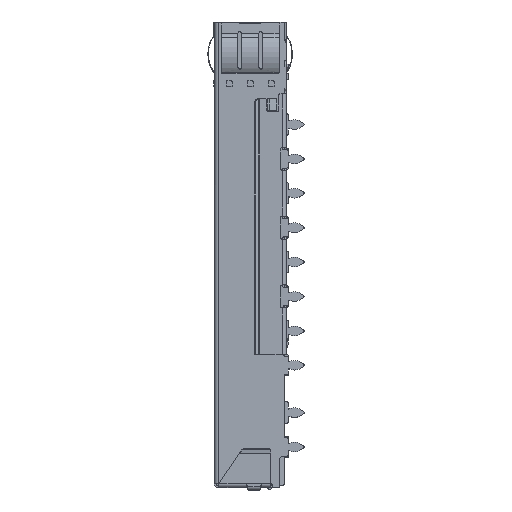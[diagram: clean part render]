
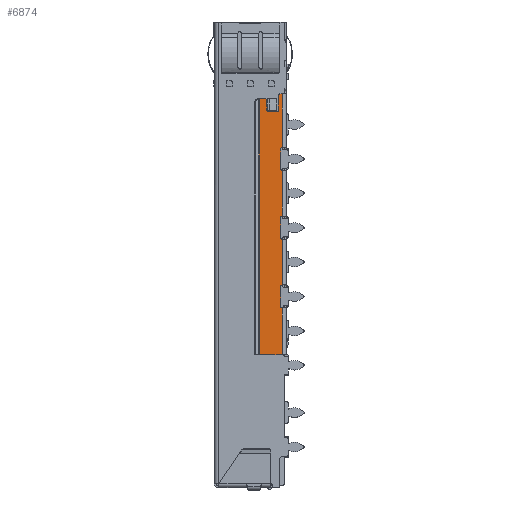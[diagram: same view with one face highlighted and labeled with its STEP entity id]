
A CAD part, left-side view. The second image highlights one B-rep face of the part: STEP entity #6874.
In plain terms, the highlighted planar face has unit normal (-1, 0, 0).
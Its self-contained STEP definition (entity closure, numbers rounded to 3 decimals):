
#2890=FACE_OUTER_BOUND('',#17374,.T.);
#6874=ADVANCED_FACE('',(#2890),#10321,.F.);
#10321=PLANE('',#73436);
#14139=CIRCLE('',#73404,0.2);
#14141=CIRCLE('',#73408,0.2);
#14143=CIRCLE('',#73412,0.2);
#14145=CIRCLE('',#73416,0.2);
#14153=CIRCLE('',#73430,0.2);
#14154=CIRCLE('',#73431,0.2);
#14155=CIRCLE('',#73432,0.2);
#14156=CIRCLE('',#73433,0.2);
#14157=CIRCLE('',#73434,0.2);
#14158=CIRCLE('',#73435,0.2);
#17374=EDGE_LOOP('',(#27868,#27869,#27870,#27871,#27872,#27873,#27874,#27875,
#27876,#27877,#27878,#27879,#27880,#27881,#27882,#27883,#27884,#27885,#27886,
#27887,#27888,#27889,#27890,#27891));
#27868=ORIENTED_EDGE('',*,*,#52150,.F.);
#27869=ORIENTED_EDGE('',*,*,#52103,.F.);
#27870=ORIENTED_EDGE('',*,*,#52151,.F.);
#27871=ORIENTED_EDGE('',*,*,#52083,.F.);
#27872=ORIENTED_EDGE('',*,*,#52152,.F.);
#27873=ORIENTED_EDGE('',*,*,#52107,.F.);
#27874=ORIENTED_EDGE('',*,*,#52153,.F.);
#27875=ORIENTED_EDGE('',*,*,#52069,.F.);
#27876=ORIENTED_EDGE('',*,*,#52154,.T.);
#27877=ORIENTED_EDGE('',*,*,#52113,.T.);
#27878=ORIENTED_EDGE('',*,*,#52115,.F.);
#27879=ORIENTED_EDGE('',*,*,#52120,.T.);
#27880=ORIENTED_EDGE('',*,*,#52123,.F.);
#27881=ORIENTED_EDGE('',*,*,#52126,.T.);
#27882=ORIENTED_EDGE('',*,*,#52129,.F.);
#27883=ORIENTED_EDGE('',*,*,#52132,.T.);
#27884=ORIENTED_EDGE('',*,*,#52134,.F.);
#27885=ORIENTED_EDGE('',*,*,#52101,.T.);
#27886=ORIENTED_EDGE('',*,*,#52149,.T.);
#27887=ORIENTED_EDGE('',*,*,#52052,.F.);
#27888=ORIENTED_EDGE('',*,*,#52155,.F.);
#27889=ORIENTED_EDGE('',*,*,#52137,.F.);
#27890=ORIENTED_EDGE('',*,*,#52156,.F.);
#27891=ORIENTED_EDGE('',*,*,#52041,.F.);
#44531=VERTEX_POINT('',#112288);
#44534=VERTEX_POINT('',#112295);
#44539=VERTEX_POINT('',#112358);
#44541=VERTEX_POINT('',#112364);
#44545=VERTEX_POINT('',#112377);
#44551=VERTEX_POINT('',#112390);
#44556=VERTEX_POINT('',#112423);
#44559=VERTEX_POINT('',#112430);
#44571=VERTEX_POINT('',#112499);
#44574=VERTEX_POINT('',#112509);
#44575=VERTEX_POINT('',#112513);
#44576=VERTEX_POINT('',#112514);
#44579=VERTEX_POINT('',#112522);
#44580=VERTEX_POINT('',#112523);
#44585=VERTEX_POINT('',#112534);
#44586=VERTEX_POINT('',#112536);
#44587=VERTEX_POINT('',#112540);
#44590=VERTEX_POINT('',#112548);
#44592=VERTEX_POINT('',#112554);
#44594=VERTEX_POINT('',#112560);
#44596=VERTEX_POINT('',#112566);
#44598=VERTEX_POINT('',#112572);
#44600=VERTEX_POINT('',#112583);
#44601=VERTEX_POINT('',#112584);
#52041=EDGE_CURVE('',#44534,#44531,#60613,.T.);
#52052=EDGE_CURVE('',#44541,#44539,#60618,.T.);
#52069=EDGE_CURVE('',#44551,#44545,#60627,.T.);
#52083=EDGE_CURVE('',#44559,#44556,#60633,.T.);
#52101=EDGE_CURVE('',#44571,#44574,#60647,.T.);
#52103=EDGE_CURVE('',#44575,#44576,#60648,.T.);
#52107=EDGE_CURVE('',#44579,#44580,#60652,.T.);
#52113=EDGE_CURVE('',#44586,#44585,#14139,.T.);
#52115=EDGE_CURVE('',#44587,#44585,#60658,.T.);
#52120=EDGE_CURVE('',#44587,#44590,#14141,.T.);
#52123=EDGE_CURVE('',#44592,#44590,#60664,.T.);
#52126=EDGE_CURVE('',#44592,#44594,#14143,.T.);
#52129=EDGE_CURVE('',#44596,#44594,#60668,.T.);
#52132=EDGE_CURVE('',#44596,#44598,#14145,.T.);
#52134=EDGE_CURVE('',#44571,#44598,#60671,.T.);
#52137=EDGE_CURVE('',#44600,#44601,#60673,.T.);
#52149=EDGE_CURVE('',#44574,#44539,#60679,.T.);
#52150=EDGE_CURVE('',#44576,#44534,#14153,.T.);
#52151=EDGE_CURVE('',#44556,#44575,#14154,.T.);
#52152=EDGE_CURVE('',#44580,#44559,#14155,.T.);
#52153=EDGE_CURVE('',#44545,#44579,#14156,.T.);
#52154=EDGE_CURVE('',#44551,#44586,#60680,.T.);
#52155=EDGE_CURVE('',#44601,#44541,#14157,.T.);
#52156=EDGE_CURVE('',#44531,#44600,#14158,.T.);
#60613=LINE('',#112336,#67168);
#60618=LINE('',#112371,#67173);
#60627=LINE('',#112417,#67182);
#60633=LINE('',#112471,#67188);
#60647=LINE('',#112508,#67202);
#60648=LINE('',#112512,#67203);
#60652=LINE('',#112521,#67207);
#60658=LINE('',#112539,#67213);
#60664=LINE('',#112555,#67219);
#60668=LINE('',#112567,#67223);
#60671=LINE('',#112576,#67226);
#60673=LINE('',#112582,#67228);
#60679=LINE('',#112600,#67234);
#60680=LINE('',#112606,#67235);
#67168=VECTOR('',#86042,1.);
#67173=VECTOR('',#86063,1.);
#67182=VECTOR('',#86092,1.);
#67188=VECTOR('',#86114,1.);
#67202=VECTOR('',#86150,1.);
#67203=VECTOR('',#86155,1.);
#67207=VECTOR('',#86161,1.);
#67213=VECTOR('',#86175,1.);
#67219=VECTOR('',#86189,1.);
#67223=VECTOR('',#86201,1.);
#67226=VECTOR('',#86212,1.);
#67228=VECTOR('',#86220,1.);
#67234=VECTOR('',#86242,1.);
#67235=VECTOR('',#86253,1.);
#73404=AXIS2_PLACEMENT_3D('',#112535,#86170,#86171);
#73408=AXIS2_PLACEMENT_3D('',#112549,#86183,#86184);
#73412=AXIS2_PLACEMENT_3D('',#112561,#86195,#86196);
#73416=AXIS2_PLACEMENT_3D('',#112573,#86207,#86208);
#73430=AXIS2_PLACEMENT_3D('',#112602,#86245,#86246);
#73431=AXIS2_PLACEMENT_3D('',#112603,#86247,#86248);
#73432=AXIS2_PLACEMENT_3D('',#112604,#86249,#86250);
#73433=AXIS2_PLACEMENT_3D('',#112605,#86251,#86252);
#73434=AXIS2_PLACEMENT_3D('',#112607,#86254,#86255);
#73435=AXIS2_PLACEMENT_3D('',#112608,#86256,#86257);
#73436=AXIS2_PLACEMENT_3D('',#112609,#86258,#86259);
#86042=DIRECTION('',(0.,0.,-1.));
#86063=DIRECTION('',(0.,0.,-1.));
#86092=DIRECTION('',(0.,0.,-1.));
#86114=DIRECTION('',(0.,0.,-1.));
#86150=DIRECTION('',(0.,0.,-1.));
#86155=DIRECTION('',(0.,0.,-1.));
#86161=DIRECTION('',(0.,0.,-1.));
#86170=DIRECTION('',(-1.,0.,0.));
#86171=DIRECTION('',(0.,1.,0.));
#86175=DIRECTION('',(0.,0.,1.));
#86183=DIRECTION('',(1.,0.,0.));
#86184=DIRECTION('',(0.,1.,0.));
#86189=DIRECTION('',(0.,-1.,0.));
#86195=DIRECTION('',(1.,0.,0.));
#86196=DIRECTION('',(0.,1.,0.));
#86201=DIRECTION('',(0.,0.,-1.));
#86207=DIRECTION('',(-1.,0.,0.));
#86208=DIRECTION('',(0.,1.,0.));
#86212=DIRECTION('',(0.,-1.,0.));
#86220=DIRECTION('',(0.,0.,-1.));
#86242=DIRECTION('',(0.,-1.,0.));
#86245=DIRECTION('',(-1.,0.,0.));
#86246=DIRECTION('',(0.,0.,-1.));
#86247=DIRECTION('',(-1.,0.,0.));
#86248=DIRECTION('',(0.,0.,-1.));
#86249=DIRECTION('',(-1.,0.,0.));
#86250=DIRECTION('',(0.,0.,-1.));
#86251=DIRECTION('',(-1.,0.,0.));
#86252=DIRECTION('',(0.,0.,-1.));
#86253=DIRECTION('',(0.,1.,0.));
#86254=DIRECTION('',(-1.,0.,0.));
#86255=DIRECTION('',(0.,0.,-1.));
#86256=DIRECTION('',(-1.,0.,0.));
#86257=DIRECTION('',(0.,0.,-1.));
#86258=DIRECTION('',(1.,0.,0.));
#86259=DIRECTION('',(0.,1.,0.));
#112288=CARTESIAN_POINT('',(-28.91,-8.9,-34.4));
#112295=CARTESIAN_POINT('',(-28.91,-8.9,-28.4));
#112336=CARTESIAN_POINT('',(-28.91,-8.9,-43.51));
#112358=CARTESIAN_POINT('',(-28.91,-8.9,-43.51));
#112364=CARTESIAN_POINT('',(-28.91,-8.9,-37.4));
#112371=CARTESIAN_POINT('',(-28.91,-8.9,-43.51));
#112377=CARTESIAN_POINT('',(-28.91,-8.9,-16.4));
#112390=CARTESIAN_POINT('',(-28.91,-8.9,-9.4));
#112417=CARTESIAN_POINT('',(-28.91,-8.9,-43.51));
#112423=CARTESIAN_POINT('',(-28.91,-8.9,-25.4));
#112430=CARTESIAN_POINT('',(-28.91,-8.9,-19.4));
#112471=CARTESIAN_POINT('',(-28.91,-8.9,-43.51));
#112499=CARTESIAN_POINT('',(-28.91,-5.899,-10.05));
#112508=CARTESIAN_POINT('',(-28.91,-5.899,0.));
#112509=CARTESIAN_POINT('',(-28.91,-5.899,-43.51));
#112512=CARTESIAN_POINT('',(-28.91,-8.7,-25.6));
#112513=CARTESIAN_POINT('',(-28.91,-8.7,-25.6));
#112514=CARTESIAN_POINT('',(-28.91,-8.7,-28.2));
#112521=CARTESIAN_POINT('',(-28.91,-8.7,-16.6));
#112522=CARTESIAN_POINT('',(-28.91,-8.7,-16.6));
#112523=CARTESIAN_POINT('',(-28.91,-8.7,-19.2));
#112534=CARTESIAN_POINT('',(-28.91,-8.4,-9.6));
#112535=CARTESIAN_POINT('',(-28.91,-8.6,-9.6));
#112536=CARTESIAN_POINT('',(-28.91,-8.6,-9.4));
#112539=CARTESIAN_POINT('',(-28.91,-8.4,-11.75));
#112540=CARTESIAN_POINT('',(-28.91,-8.4,-11.55));
#112548=CARTESIAN_POINT('',(-28.91,-8.2,-11.75));
#112549=CARTESIAN_POINT('',(-28.91,-8.2,-11.55));
#112554=CARTESIAN_POINT('',(-28.91,-7.1,-11.75));
#112555=CARTESIAN_POINT('',(-28.91,-6.9,-11.75));
#112560=CARTESIAN_POINT('',(-28.91,-6.9,-11.55));
#112561=CARTESIAN_POINT('',(-28.91,-7.1,-11.55));
#112566=CARTESIAN_POINT('',(-28.91,-6.9,-10.25));
#112567=CARTESIAN_POINT('',(-28.91,-6.9,-11.75));
#112572=CARTESIAN_POINT('',(-28.91,-6.7,-10.05));
#112573=CARTESIAN_POINT('',(-28.91,-6.7,-10.25));
#112576=CARTESIAN_POINT('',(-28.91,-5.3,-10.05));
#112582=CARTESIAN_POINT('',(-28.91,-8.7,-34.6));
#112583=CARTESIAN_POINT('',(-28.91,-8.7,-34.6));
#112584=CARTESIAN_POINT('',(-28.91,-8.7,-37.2));
#112600=CARTESIAN_POINT('',(-28.91,-9.4,-43.51));
#112602=CARTESIAN_POINT('',(-28.91,-8.9,-28.2));
#112603=CARTESIAN_POINT('',(-28.91,-8.9,-25.6));
#112604=CARTESIAN_POINT('',(-28.91,-8.9,-19.2));
#112605=CARTESIAN_POINT('',(-28.91,-8.9,-16.6));
#112606=CARTESIAN_POINT('',(-28.91,-9.4,-9.4));
#112607=CARTESIAN_POINT('',(-28.91,-8.9,-37.2));
#112608=CARTESIAN_POINT('',(-28.91,-8.9,-34.6));
#112609=CARTESIAN_POINT('',(-28.91,-9.4,0.));
